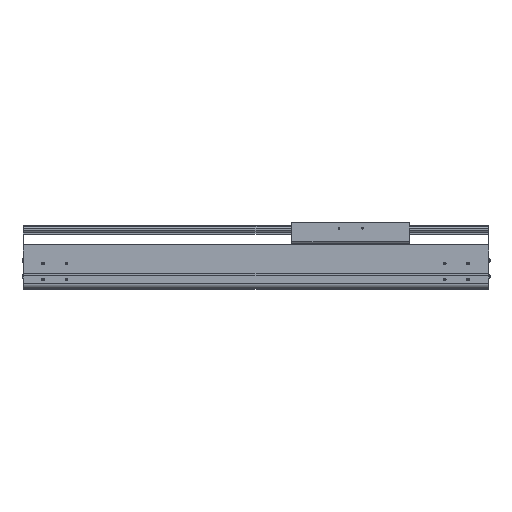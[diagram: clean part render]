
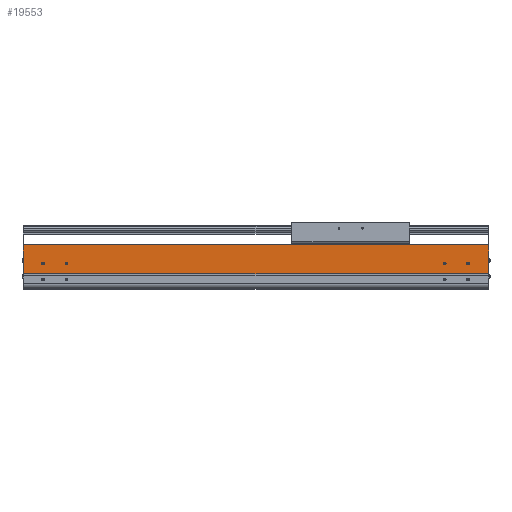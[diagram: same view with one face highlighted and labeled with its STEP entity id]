
A CAD part, top view. The second image highlights one B-rep face of the part: STEP entity #19553.
In plain terms, the highlighted planar face has unit normal (0, 0, 1).
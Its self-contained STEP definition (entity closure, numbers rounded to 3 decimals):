
#4969=DIRECTION('',(-1.,0.,0.));
#4970=VECTOR('',#4969,988.);
#4971=CARTESIAN_POINT('',(2.,93.5,107.));
#4972=LINE('',#4971,#4970);
#4995=CARTESIAN_POINT('',(-42.,54.,107.));
#4996=DIRECTION('',(0.,0.,-1.));
#4997=DIRECTION('',(1.,0.,0.));
#4998=AXIS2_PLACEMENT_3D('',#4995,#4996,#4997);
#5000=CARTESIAN_POINT('',(-42.,54.,107.));
#5001=DIRECTION('',(0.,0.,-1.));
#5002=DIRECTION('',(-1.,0.,0.));
#5003=AXIS2_PLACEMENT_3D('',#5000,#5001,#5002);
#5005=CARTESIAN_POINT('',(-92.,54.,107.));
#5006=DIRECTION('',(0.,0.,-1.));
#5007=DIRECTION('',(1.,0.,0.));
#5008=AXIS2_PLACEMENT_3D('',#5005,#5006,#5007);
#5010=CARTESIAN_POINT('',(-92.,54.,107.));
#5011=DIRECTION('',(0.,0.,-1.));
#5012=DIRECTION('',(-1.,0.,0.));
#5013=AXIS2_PLACEMENT_3D('',#5010,#5011,#5012);
#5015=CARTESIAN_POINT('',(-944.,54.,107.));
#5016=DIRECTION('',(0.,0.,-1.));
#5017=DIRECTION('',(1.,0.,0.));
#5018=AXIS2_PLACEMENT_3D('',#5015,#5016,#5017);
#5020=CARTESIAN_POINT('',(-944.,54.,107.));
#5021=DIRECTION('',(0.,0.,-1.));
#5022=DIRECTION('',(-1.,0.,0.));
#5023=AXIS2_PLACEMENT_3D('',#5020,#5021,#5022);
#5025=CARTESIAN_POINT('',(-894.,54.,107.));
#5026=DIRECTION('',(0.,0.,-1.));
#5027=DIRECTION('',(1.,0.,0.));
#5028=AXIS2_PLACEMENT_3D('',#5025,#5026,#5027);
#5030=CARTESIAN_POINT('',(-894.,54.,107.));
#5031=DIRECTION('',(0.,0.,-1.));
#5032=DIRECTION('',(-1.,0.,0.));
#5033=AXIS2_PLACEMENT_3D('',#5030,#5031,#5032);
#5035=DIRECTION('',(0.,-1.,0.));
#5036=VECTOR('',#5035,2.55);
#5037=CARTESIAN_POINT('',(-984.,34.65,107.));
#5038=LINE('',#5037,#5036);
#5039=DIRECTION('',(0.,-1.,0.));
#5040=VECTOR('',#5039,58.85);
#5041=CARTESIAN_POINT('',(-986.,93.5,107.));
#5042=LINE('',#5041,#5040);
#5043=DIRECTION('',(0.,1.,0.));
#5044=VECTOR('',#5043,58.85);
#5045=CARTESIAN_POINT('',(2.,34.65,107.));
#5046=LINE('',#5045,#5044);
#5047=DIRECTION('',(0.,1.,0.));
#5048=VECTOR('',#5047,2.55);
#5049=CARTESIAN_POINT('',(0.,32.1,107.));
#5050=LINE('',#5049,#5048);
#5159=DIRECTION('',(1.,0.,0.));
#5160=VECTOR('',#5159,2.);
#5161=CARTESIAN_POINT('',(-986.,34.65,107.));
#5162=LINE('',#5161,#5160);
#5271=DIRECTION('',(1.,0.,0.));
#5272=VECTOR('',#5271,984.);
#5273=CARTESIAN_POINT('',(-984.,32.1,107.));
#5274=LINE('',#5273,#5272);
#5287=DIRECTION('',(1.,0.,0.));
#5288=VECTOR('',#5287,2.);
#5289=CARTESIAN_POINT('',(0.,34.65,107.));
#5290=LINE('',#5289,#5288);
#10537=CARTESIAN_POINT('',(-986.,34.65,107.));
#10538=VERTEX_POINT('',#10537);
#10539=CARTESIAN_POINT('',(-986.,93.5,107.));
#10540=VERTEX_POINT('',#10539);
#10769=CARTESIAN_POINT('',(-984.,32.1,107.));
#10770=VERTEX_POINT('',#10769);
#10865=CARTESIAN_POINT('',(0.,32.1,107.));
#10866=VERTEX_POINT('',#10865);
#11199=CARTESIAN_POINT('',(-39.5,54.,107.));
#11200=CARTESIAN_POINT('',(-44.5,54.,107.));
#11201=VERTEX_POINT('',#11199);
#11202=VERTEX_POINT('',#11200);
#11203=CARTESIAN_POINT('',(-89.5,54.,107.));
#11204=CARTESIAN_POINT('',(-94.5,54.,107.));
#11205=VERTEX_POINT('',#11203);
#11206=VERTEX_POINT('',#11204);
#11207=CARTESIAN_POINT('',(-941.5,54.,107.));
#11208=CARTESIAN_POINT('',(-946.5,54.,107.));
#11209=VERTEX_POINT('',#11207);
#11210=VERTEX_POINT('',#11208);
#11211=CARTESIAN_POINT('',(-891.5,54.,107.));
#11212=CARTESIAN_POINT('',(-896.5,54.,107.));
#11213=VERTEX_POINT('',#11211);
#11214=VERTEX_POINT('',#11212);
#12218=CARTESIAN_POINT('',(2.,34.65,107.));
#12219=VERTEX_POINT('',#12218);
#12220=CARTESIAN_POINT('',(2.,93.5,107.));
#12221=VERTEX_POINT('',#12220);
#12442=CARTESIAN_POINT('',(0.,34.65,107.));
#12443=VERTEX_POINT('',#12442);
#12754=CARTESIAN_POINT('',(-984.,34.65,107.));
#12755=VERTEX_POINT('',#12754);
#19511=CARTESIAN_POINT('',(-492.,62.8,107.));
#19512=DIRECTION('',(0.,0.,1.));
#19513=DIRECTION('',(0.,-1.,0.));
#19514=AXIS2_PLACEMENT_3D('',#19511,#19512,#19513);
#19515=PLANE('',#19514);
#19516=ORIENTED_EDGE('',*,*,#13768,.F.);
#19518=ORIENTED_EDGE('',*,*,#19517,.F.);
#19519=ORIENTED_EDGE('',*,*,#14381,.F.);
#19520=ORIENTED_EDGE('',*,*,#19497,.F.);
#19521=ORIENTED_EDGE('',*,*,#13505,.F.);
#19523=ORIENTED_EDGE('',*,*,#19522,.F.);
#19524=ORIENTED_EDGE('',*,*,#15065,.F.);
#19526=ORIENTED_EDGE('',*,*,#19525,.F.);
#19527=EDGE_LOOP('',(#19516,#19518,#19519,#19520,#19521,#19523,#19524,#19526));
#19528=FACE_OUTER_BOUND('',#19527,.F.);
#19530=ORIENTED_EDGE('',*,*,#19529,.F.);
#19532=ORIENTED_EDGE('',*,*,#19531,.F.);
#19533=EDGE_LOOP('',(#19530,#19532));
#19534=FACE_BOUND('',#19533,.F.);
#19536=ORIENTED_EDGE('',*,*,#19535,.F.);
#19538=ORIENTED_EDGE('',*,*,#19537,.F.);
#19539=EDGE_LOOP('',(#19536,#19538));
#19540=FACE_BOUND('',#19539,.F.);
#19542=ORIENTED_EDGE('',*,*,#19541,.F.);
#19544=ORIENTED_EDGE('',*,*,#19543,.F.);
#19545=EDGE_LOOP('',(#19542,#19544));
#19546=FACE_BOUND('',#19545,.F.);
#19548=ORIENTED_EDGE('',*,*,#19547,.F.);
#19550=ORIENTED_EDGE('',*,*,#19549,.F.);
#19551=EDGE_LOOP('',(#19548,#19550));
#19552=FACE_BOUND('',#19551,.F.);
#19553=ADVANCED_FACE('',(#19528,#19534,#19540,#19546,#19552),#19515,.T.);
#4999=CIRCLE('',#4998,2.5);
#5004=CIRCLE('',#5003,2.5);
#5009=CIRCLE('',#5008,2.5);
#5014=CIRCLE('',#5013,2.5);
#5019=CIRCLE('',#5018,2.5);
#5024=CIRCLE('',#5023,2.5);
#5029=CIRCLE('',#5028,2.5);
#5034=CIRCLE('',#5033,2.5);
#13505=EDGE_CURVE('',#12219,#12221,#5046,.T.);
#13768=EDGE_CURVE('',#12755,#10770,#5038,.T.);
#14381=EDGE_CURVE('',#10540,#10538,#5042,.T.);
#15065=EDGE_CURVE('',#10866,#12443,#5050,.T.);
#19497=EDGE_CURVE('',#12221,#10540,#4972,.T.);
#19517=EDGE_CURVE('',#10538,#12755,#5162,.T.);
#19522=EDGE_CURVE('',#12443,#12219,#5290,.T.);
#19525=EDGE_CURVE('',#10770,#10866,#5274,.T.);
#19529=EDGE_CURVE('',#11205,#11206,#5009,.T.);
#19531=EDGE_CURVE('',#11206,#11205,#5014,.T.);
#19535=EDGE_CURVE('',#11209,#11210,#5019,.T.);
#19537=EDGE_CURVE('',#11210,#11209,#5024,.T.);
#19541=EDGE_CURVE('',#11213,#11214,#5029,.T.);
#19543=EDGE_CURVE('',#11214,#11213,#5034,.T.);
#19547=EDGE_CURVE('',#11201,#11202,#4999,.T.);
#19549=EDGE_CURVE('',#11202,#11201,#5004,.T.);
